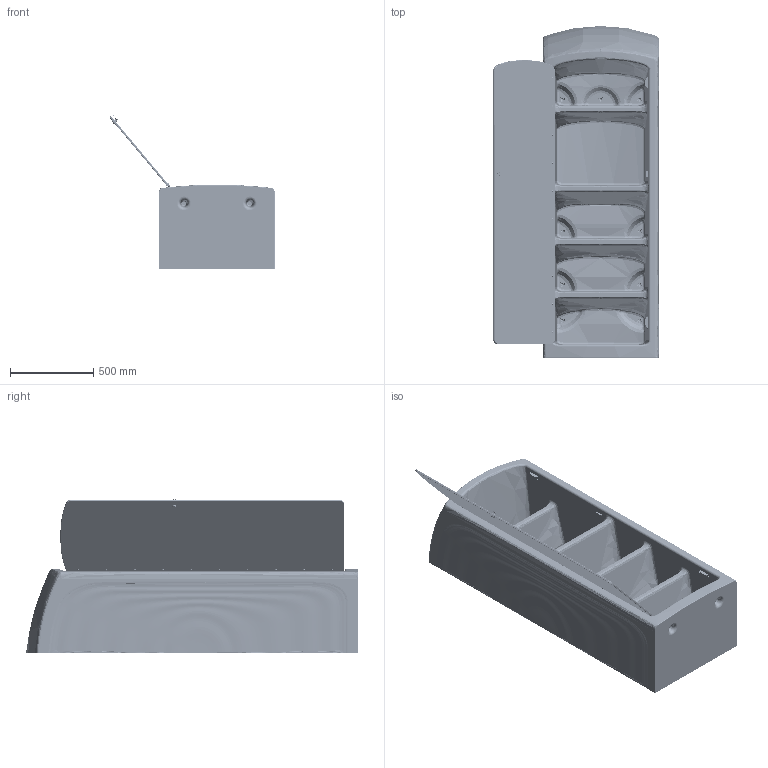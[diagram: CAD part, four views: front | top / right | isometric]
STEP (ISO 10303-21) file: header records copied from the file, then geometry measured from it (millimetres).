
FILE_DESCRIPTION (( 'STEP AP203' ), '1' );
FILE_NAME ('RYNO WARDROBE WITH SGL DOOR (door open).STEP', '2025-04-01T07:24:41', ( '' ), ( '' ), 'SwSTEP 2.0', 'SolidWorks 2024', '' );
FILE_SCHEMA (( 'CONFIG_CONTROL_DESIGN' ));
Length unit declared in the file: millimetre
Products named in the file (14): PCPD1951_01 - Door Stop Bracket; PCPD1448-02_Ryno Large Open Wardrobe & PCPD1450-02_Ryno Large Open Storage - Modular tool_Shelved; Lowe and Fletcher CAM Lock - 4304_LOCKED; Fastenright - No.6x25mm T30 Self Tapping Security Screw; Hafele Latch Plate; Fastenright - M6 D Insert Nut; Fastenright - M6x12mm Security Torx Barrel; PCPD6474_02 - Full Height Hinge; PCPD6474_02 - Full Height Hinge - Part A; Fastenright - M6x8mm T30 Security Screw; IP ONLY - Ryno Wardrobe Door_12mm; PCPD6474_02 - Full Height Hinge - Part B; RYNO WARDROBE WITH SGL DOOR (door open); Fastenright - M6x25mm T30 Security Screw
Assembly tree (59 placements, depth 3):
  RYNO WARDROBE WITH SGL DOOR (door open)
    PCPD1448-02_Ryno Large Open Wardrobe & PCPD1450-02_Ryno Large Open Storage - Modular tool_Shelved
    PCPD6474_02 - Full Height Hinge
      PCPD6474_02 - Full Height Hinge - Part A
      PCPD6474_02 - Full Height Hinge - Part B
    Hafele Latch Plate
    PCPD1951_01 - Door Stop Bracket  x2
    Lowe and Fletcher CAM Lock - 4304_LOCKED
    Fastenright - M6x12mm Security Torx Barrel  x10
    Fastenright - M6x8mm T30 Security Screw  x10
    Fastenright - M6x25mm T30 Security Screw  x14
    Fastenright - No.6x25mm T30 Self Tapping Security Screw  x2
    Fastenright - M6 D Insert Nut  x14
    IP ONLY - Ryno Wardrobe Door_12mm
Bounding box: 997.27 x 1999.99 x 931.7 mm (x, y, z)
Volume: 307360887.9 mm3; surface area: 10538285.3 mm2
Topology: 74 solids, 74 shells, 2710 faces, 6822 edges, 4428 vertices
Faces by surface type: plane 1329, cylinder 817, bspline 381, torus 100, cone 83
Full cylindrical faces by diameter (mm): 0.594 x2, 0.8 x34, 3 x55, 3.5 x2, 4 x2, 6 x1, 7.5 x10, 8 x20, 8.2 x10, 10 x6, 10.5 x24, 12 x10, 22.2 x1
Entity records: 130284 total; most frequent: CARTESIAN_POINT 104103, ORIENTED_EDGE 4870, DIRECTION 4398, EDGE_CURVE 2435, VERTEX_POINT 1670, AXIS2_PLACEMENT_3D 1669, EDGE_LOOP 1497, FACE_OUTER_BOUND 1200
